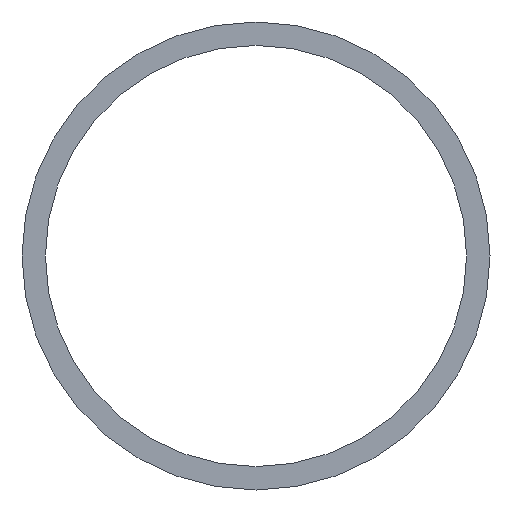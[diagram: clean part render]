
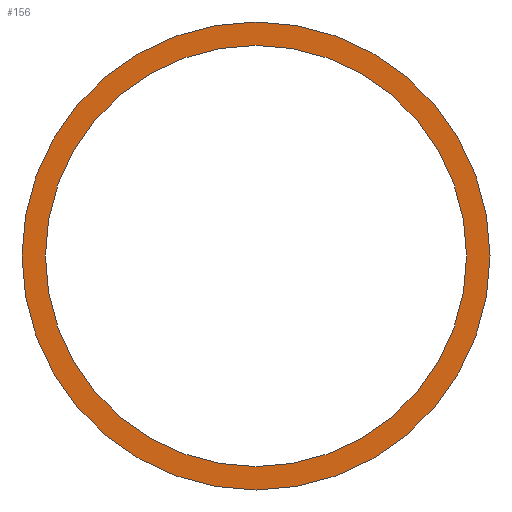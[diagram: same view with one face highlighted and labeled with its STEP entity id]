
A CAD part, front view. The second image highlights one B-rep face of the part: STEP entity #156.
In plain terms, the highlighted planar face has unit normal (0, -1, 0).
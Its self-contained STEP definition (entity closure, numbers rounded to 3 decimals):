
#23 = DIRECTION ( 'NONE',  ( 0., 1., 0. ) ) ;
#29 = ORIENTED_EDGE ( 'NONE', *, *, #49, .T. ) ;
#36 = CIRCLE ( 'NONE', #183, 6. ) ;
#40 = AXIS2_PLACEMENT_3D ( 'NONE', #46, #122, #70 ) ;
#41 = CARTESIAN_POINT ( 'NONE',  ( 0., -750., -6. ) ) ;
#43 = EDGE_LOOP ( 'NONE', ( #29, #158 ) ) ;
#46 = CARTESIAN_POINT ( 'NONE',  ( 0., -750., 0. ) ) ;
#49 = EDGE_CURVE ( 'NONE', #113, #211, #173, .T. ) ;
#58 = FACE_OUTER_BOUND ( 'NONE', #64, .T. ) ;
#59 = VERTEX_POINT ( 'NONE', #95 ) ;
#64 = EDGE_LOOP ( 'NONE', ( #180, #110 ) ) ;
#70 = DIRECTION ( 'NONE',  ( 0., 0., 1. ) ) ;
#71 = DIRECTION ( 'NONE',  ( 0., 0., 1. ) ) ;
#75 = FACE_BOUND ( 'NONE', #43, .T. ) ;
#83 = DIRECTION ( 'NONE',  ( 0., 1., 0. ) ) ;
#84 = CARTESIAN_POINT ( 'NONE',  ( 0., -750., 0. ) ) ;
#90 = CARTESIAN_POINT ( 'NONE',  ( 0., -750., 5.4 ) ) ;
#92 = EDGE_CURVE ( 'NONE', #59, #196, #154, .T. ) ;
#93 = CARTESIAN_POINT ( 'NONE',  ( 0., -750., 0. ) ) ;
#95 = CARTESIAN_POINT ( 'NONE',  ( 0., -750., 6. ) ) ;
#102 = CIRCLE ( 'NONE', #168, 5.4 ) ;
#110 = ORIENTED_EDGE ( 'NONE', *, *, #92, .F. ) ;
#111 = CARTESIAN_POINT ( 'NONE',  ( 0., -750., 0. ) ) ;
#113 = VERTEX_POINT ( 'NONE', #133 ) ;
#119 = DIRECTION ( 'NONE',  ( 0., 0., 1. ) ) ;
#122 = DIRECTION ( 'NONE',  ( 0., 1., 0. ) ) ;
#128 = EDGE_CURVE ( 'NONE', #211, #113, #102, .T. ) ;
#129 = DIRECTION ( 'NONE',  ( 0., 0., 1. ) ) ;
#133 = CARTESIAN_POINT ( 'NONE',  ( 0., -750., -5.4 ) ) ;
#138 = CARTESIAN_POINT ( 'NONE',  ( 0., -750., 0. ) ) ;
#144 = EDGE_CURVE ( 'NONE', #196, #59, #36, .T. ) ;
#148 = AXIS2_PLACEMENT_3D ( 'NONE', #84, #23, #129 ) ;
#154 = CIRCLE ( 'NONE', #148, 6. ) ;
#156 = ADVANCED_FACE ( 'NONE', ( #58, #75 ), #159, .F. ) ;
#158 = ORIENTED_EDGE ( 'NONE', *, *, #128, .T. ) ;
#159 = PLANE ( 'NONE',  #40 ) ;
#168 = AXIS2_PLACEMENT_3D ( 'NONE', #138, #83, #119 ) ;
#173 = CIRCLE ( 'NONE', #194, 5.4 ) ;
#180 = ORIENTED_EDGE ( 'NONE', *, *, #144, .F. ) ;
#183 = AXIS2_PLACEMENT_3D ( 'NONE', #93, #206, #71 ) ;
#188 = DIRECTION ( 'NONE',  ( 0., 0., 1. ) ) ;
#194 = AXIS2_PLACEMENT_3D ( 'NONE', #111, #214, #188 ) ;
#196 = VERTEX_POINT ( 'NONE', #41 ) ;
#206 = DIRECTION ( 'NONE',  ( 0., 1., 0. ) ) ;
#211 = VERTEX_POINT ( 'NONE', #90 ) ;
#214 = DIRECTION ( 'NONE',  ( 0., 1., 0. ) ) ;
